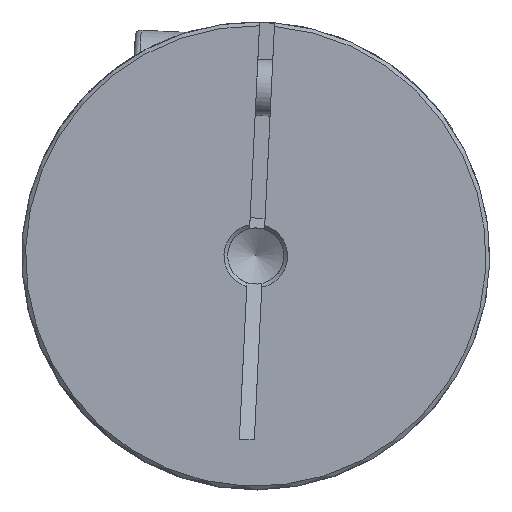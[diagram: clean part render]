
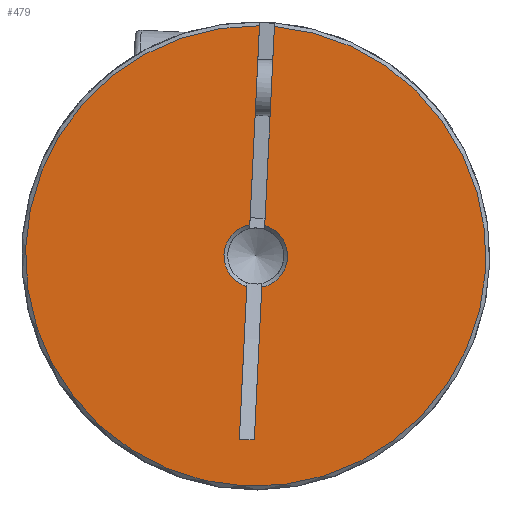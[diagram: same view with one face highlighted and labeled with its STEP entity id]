
A CAD part, left-side view. The second image highlights one B-rep face of the part: STEP entity #479.
In plain terms, the highlighted planar face has unit normal (-1, 0, 0) as drawn and (0, 0, 1) by its records, which use the part's own axes.
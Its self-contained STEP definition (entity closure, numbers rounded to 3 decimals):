
#479 = ADVANCED_FACE( 'NONE', ( #995 ), #996, .T. );
#995 = FACE_OUTER_BOUND( '', #1504, .T. );
#996 = PLANE( '', #1505 );
#1504 = EDGE_LOOP( '', ( #2376, #2377, #2378, #2379, #2380, #2381, #2382, #2383 ) );
#1505 = AXIS2_PLACEMENT_3D( '', #2384, #2385, #2386 );
#2376 = ORIENTED_EDGE( '', *, *, #2495, .F. );
#2377 = ORIENTED_EDGE( '', *, *, #2687, .T. );
#2378 = ORIENTED_EDGE( '', *, *, #2697, .F. );
#2379 = ORIENTED_EDGE( '', *, *, #2609, .T. );
#2380 = ORIENTED_EDGE( '', *, *, #2713, .T. );
#2381 = ORIENTED_EDGE( '', *, *, #2798, .T. );
#2382 = ORIENTED_EDGE( '', *, *, #2560, .T. );
#2383 = ORIENTED_EDGE( '', *, *, #2706, .F. );
#2384 = CARTESIAN_POINT( '', ( 0., 0., 11.25 ) );
#2385 = DIRECTION( '', ( 0., 0., 1. ) );
#2386 = DIRECTION( '', ( 1., 0., 0. ) );
#2495 = EDGE_CURVE( 'NONE', #2834, #2836, #2837, .F. );
#2560 = EDGE_CURVE( 'NONE', #2935, #2936, #2937, .T. );
#2609 = EDGE_CURVE( 'NONE', #3015, #3012, #3016, .T. );
#2687 = EDGE_CURVE( 'NONE', #2834, #3130, #3133, .F. );
#2697 = EDGE_CURVE( 'NONE', #3015, #3130, #3144, .T. );
#2706 = EDGE_CURVE( 'NONE', #2836, #2936, #3159, .F. );
#2713 = EDGE_CURVE( 'NONE', #3012, #3167, #3169, .T. );
#2798 = EDGE_CURVE( 'NONE', #3167, #2935, #3274, .F. );
#2834 = VERTEX_POINT( 'NONE', #3314 );
#2836 = VERTEX_POINT( 'NONE', #3319 );
#2837 = LINE( '', #3320, #3321 );
#2935 = VERTEX_POINT( 'NONE', #3431 );
#2936 = VERTEX_POINT( 'NONE', #3432 );
#2937 = LINE( '', #3433, #3434 );
#3012 = VERTEX_POINT( 'NONE', #3575 );
#3015 = VERTEX_POINT( 'NONE', #3581 );
#3016 = CIRCLE( '', #3582, 12.3 );
#3130 = VERTEX_POINT( 'NONE', #3761 );
#3133 = CIRCLE( '', #3767, 1.7 );
#3144 = LINE( '', #3778, #3779 );
#3159 = LINE( '', #3799, #3800 );
#3167 = VERTEX_POINT( 'NONE', #3812 );
#3169 = LINE( '', #3817, #3818 );
#3274 = CIRCLE( '', #3944, 1.7 );
#3314 = CARTESIAN_POINT( '', ( -1.652, 0.4, 11.25 ) );
#3319 = CARTESIAN_POINT( '', ( -9.815, 0.4, 11.25 ) );
#3320 = CARTESIAN_POINT( '', ( 7., 0.4, 11.25 ) );
#3321 = VECTOR( '', #3976, 1000. );
#3431 = CARTESIAN_POINT( '', ( -1.652, -0.4, 11.25 ) );
#3432 = CARTESIAN_POINT( '', ( -9.815, -0.4, 11.25 ) );
#3433 = CARTESIAN_POINT( '', ( 0., -0.4, 11.25 ) );
#3434 = VECTOR( '', #4076, 1000. );
#3575 = CARTESIAN_POINT( '', ( 12.293, -0.4, 11.25 ) );
#3581 = CARTESIAN_POINT( '', ( 12.293, 0.4, 11.25 ) );
#3582 = AXIS2_PLACEMENT_3D( '', #4151, #4152, #4153 );
#3761 = CARTESIAN_POINT( '', ( 1.652, 0.4, 11.25 ) );
#3767 = AXIS2_PLACEMENT_3D( '', #4265, #4266, #4267 );
#3778 = CARTESIAN_POINT( '', ( 0., 0.4, 11.25 ) );
#3779 = VECTOR( '', #4277, 1000. );
#3799 = CARTESIAN_POINT( '', ( -9.815, -0.4, 11.25 ) );
#3800 = VECTOR( '', #4289, 1000. );
#3812 = CARTESIAN_POINT( '', ( 1.652, -0.4, 11.25 ) );
#3817 = CARTESIAN_POINT( '', ( 0., -0.4, 11.25 ) );
#3818 = VECTOR( '', #4291, 1000. );
#3944 = AXIS2_PLACEMENT_3D( '', #4376, #4377, #4378 );
#3976 = DIRECTION( '', ( 1., 0., 0. ) );
#4076 = DIRECTION( '', ( -1., 0., 0. ) );
#4151 = CARTESIAN_POINT( '', ( 0., 0., 11.25 ) );
#4152 = DIRECTION( '', ( 0., 0., 1. ) );
#4153 = DIRECTION( '', ( 1., 0., 0. ) );
#4265 = CARTESIAN_POINT( '', ( 0., 0., 11.25 ) );
#4266 = DIRECTION( '', ( 0., 0., 1. ) );
#4267 = DIRECTION( '', ( 1., 0., 0. ) );
#4277 = DIRECTION( '', ( -1., 0., 0. ) );
#4289 = DIRECTION( '', ( 0., 1., 0. ) );
#4291 = DIRECTION( '', ( -1., 0., 0. ) );
#4376 = CARTESIAN_POINT( '', ( 0., 0., 11.25 ) );
#4377 = DIRECTION( '', ( 0., 0., 1. ) );
#4378 = DIRECTION( '', ( 1., 0., 0. ) );
